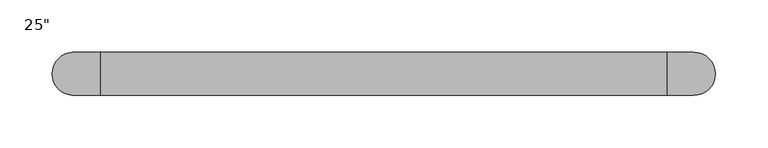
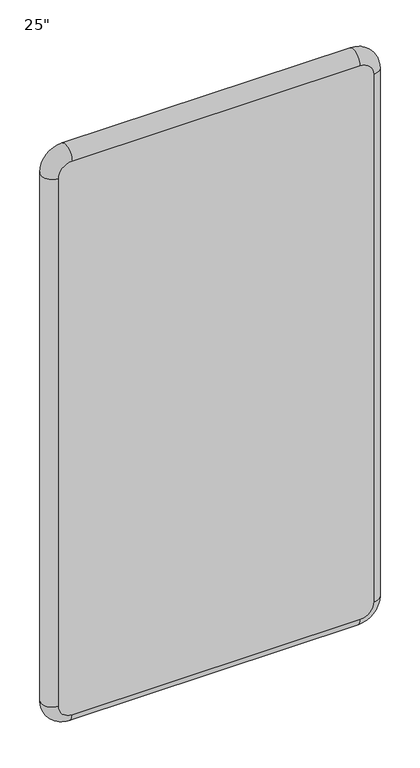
"""IFC4 building model written with IfcOpenShell, lengths in millimetres: furniture geometry."""

from ifc_helpers import new_model, si_unit, point, frame, origin, place, context, project, spatial, circle_curve, ellipse_curve, trimmed, source, transform, mapped, element, save
from ifc_brep_helpers import plane_surface, cylinder_surface, revolved_surface, advanced_brep


def furniture_6adaf966(model_context):
    return source(origin(), model_context, "Body", "AdvancedBrep", [
        advanced_brep(
        [(271.3348317, 41.275, 1165.225), (296.8625, 41.275, 1139.6973317), (296.8625, 41.275, 89.0276683), (271.3348317, 41.275, 63.5), (-271.3348317, 41.275, 63.5), (-296.8625, 41.275, 89.0276683), (-296.8625, 41.275, 1139.6973317), (-271.3348317, 41.275, 1165.225), (296.8625, 0.0, 1139.6973118), (271.3348317, 0.0, 1165.225), (-271.3348285, 0.0, 1165.225), (-296.8625, 0.0, 1139.6973317), (-296.8625, 0.0, 89.0276759), (-271.3348317, 0.0, 63.5), (271.3348155, 0.0, 63.5), (296.8625, 0.0, 89.0276683)],
        [
            (0, 1, circle_curve(frame((271.3348317, 41.275, 1139.6973317), z_axis=(0.0, 1.0, 0.0), x_axis=(0.0, 0.0, 1.0)), 25.5276683)),
            (1, 2),
            (2, 3, circle_curve(frame((271.3348317, 41.275, 89.0276683), z_axis=(0.0, 1.0, 0.0), x_axis=(1.0, 0.0, 0.0)), 25.5276683)),
            (3, 4),
            (4, 5, circle_curve(frame((-271.3348317, 41.275, 89.0276683), z_axis=(0.0, 1.0, 0.0), x_axis=(0.0, 0.0, -1.0)), 25.5276683)),
            (5, 6),
            (6, 7, circle_curve(frame((-271.3348317, 41.275, 1139.6973317), z_axis=(0.0, 1.0, 0.0), x_axis=(-1.0, 0.0, 0.0)), 25.5276683)),
            (7, 0),
            (8, 9, circle_curve(frame((271.3348317, 0.0, 1139.6973317), z_axis=(0.0, -1.0, 0.0), x_axis=(0.0, 0.0, 1.0)), 25.5276683)),
            (9, 10),
            (10, 11, circle_curve(frame((-271.3348317, 0.0, 1139.6973317), z_axis=(0.0, -1.0, 0.0), x_axis=(-1.0, 0.0, 0.0)), 25.5276683)),
            (11, 12),
            (12, 13, circle_curve(frame((-271.3348317, 0.0, 89.0276683), z_axis=(0.0, -1.0, 0.0), x_axis=(0.0, 0.0, -1.0)), 25.5276683)),
            (13, 14),
            (14, 15, circle_curve(frame((271.3348317, 0.0, 89.0276683), z_axis=(0.0, -1.0, 0.0), x_axis=(1.0, 0.0, 0.0)), 25.5276683)),
            (15, 8),
            (0, 9, circle_curve(frame((271.3348317, 20.6375, 1165.225), z_axis=(1.0, 0.0, 0.0), x_axis=(0.0, 0.0, 1.0)), 20.6375)),
            (8, 1, circle_curve(frame((296.8625, 20.6375, 1139.6973317), z_axis=(0.0, 0.0, 1.0), x_axis=(1.0, 0.0, 0.0)), 20.6375)),
            (15, 2, circle_curve(frame((296.8625, 20.6375, 89.0276683), z_axis=(0.0, 0.0, 1.0), x_axis=(1.0, 0.0, 0.0)), 20.6375)),
            (14, 3, circle_curve(frame((271.3348317, 20.6375, 63.5), z_axis=(1.0, 0.0, 0.0), x_axis=(0.0, 0.0, -1.0)), 20.6375)),
            (13, 4, circle_curve(frame((-271.3348317, 20.6375, 63.5), z_axis=(1.0, 0.0, 0.0), x_axis=(0.0, 0.0, -1.0)), 20.6375)),
            (12, 5, circle_curve(frame((-296.8625, 20.6375, 89.0276683), z_axis=(0.0, 0.0, -1.0), x_axis=(-1.0, 0.0, 0.0)), 20.6375)),
            (11, 6, circle_curve(frame((-296.8625, 20.6375, 1139.6973317), z_axis=(0.0, 0.0, -1.0), x_axis=(-1.0, 0.0, 0.0)), 20.6375)),
            (10, 7, circle_curve(frame((-271.3348317, 20.6375, 1165.225), z_axis=(-1.0, 0.0, 0.0), x_axis=(0.0, 0.0, 1.0)), 20.6375)),
        ],
        [
            plane_surface(frame((-271.3348317, 41.275, 1165.225), z_axis=(0.0, 1.0, 0.0), x_axis=(1.0, 0.0, 0.0))),
            plane_surface(frame((-271.3348317, 0.0, 1165.225), z_axis=(0.0, -1.0, 0.0), x_axis=(-1.0, 0.0, 0.0))),
            revolved_surface(trimmed(ellipse_curve(frame((271.3348317, 20.6375, 1165.225), z_axis=(-1.0, 0.0, 0.0), x_axis=(0.0, 0.0, 1.0)), 20.6375, 20.6375), [point((271.3348317, 0.0, 1165.225))], [point((271.3348317, 41.275, 1165.225))], True, "CARTESIAN"), (271.3348317, 0.0, 1139.6973317), (0.0, 1.0, 0.0)),
            cylinder_surface(frame((296.8625, 20.6375, 1139.6973317), z_axis=(0.0, 0.0, 1.0), x_axis=(1.0, 0.0, 0.0)), 20.6375),
            revolved_surface(trimmed(ellipse_curve(frame((296.8625, 20.6375, 89.0276683), z_axis=(0.0, 0.0, 1.0), x_axis=(1.0, 0.0, 0.0)), 20.6375, 20.6375), [point((296.8625, 0.0, 89.0276683))], [point((296.8625, 41.275, 89.0276683))], True, "CARTESIAN"), (271.3348317, 0.0, 89.0276683), (0.0, 1.0, 0.0)),
            cylinder_surface(frame((271.3348317, 20.6375, 63.5), z_axis=(1.0, 0.0, 0.0), x_axis=(0.0, 0.0, -1.0)), 20.6375),
            revolved_surface(trimmed(ellipse_curve(frame((-271.3348317, 20.6375, 63.5), z_axis=(1.0, 0.0, 0.0), x_axis=(0.0, 0.0, -1.0)), 20.6375, 20.6375), [point((-271.3348317, 0.0, 63.5))], [point((-271.3348317, 41.275, 63.5))], True, "CARTESIAN"), (-271.3348317, 0.0, 89.0276683), (0.0, 1.0, 0.0)),
            cylinder_surface(frame((-296.8625, 20.6375, 89.0276683), z_axis=(0.0, 0.0, -1.0), x_axis=(-1.0, 0.0, 0.0)), 20.6375),
            revolved_surface(trimmed(ellipse_curve(frame((-296.8625, 20.6375, 1139.6973317), z_axis=(0.0, 0.0, -1.0), x_axis=(-1.0, 0.0, 0.0)), 20.6375, 20.6375), [point((-296.8625, 0.0, 1139.6973317))], [point((-296.8625, 41.275, 1139.6973317))], True, "CARTESIAN"), (-271.3348317, 0.0, 1139.6973317), (0.0, 1.0, 0.0)),
            cylinder_surface(frame((-271.3348317, 20.6375, 1165.225), z_axis=(-1.0, 0.0, 0.0), x_axis=(0.0, 0.0, 1.0)), 20.6375),
        ],
        [
            (0, [[1, 2, 3, 4, 5, 6, 7, 8]]),
            (1, [[9, 10, 11, 12, 13, 14, 15, 16]]),
            (2, [[17, -9, 18, -1]]),
            (3, [[-18, -16, 19, -2]]),
            (4, [[-19, -15, 20, -3]]),
            (5, [[-20, -14, 21, -4]]),
            (6, [[-21, -13, 22, -5]]),
            (7, [[-22, -12, 23, -6]]),
            (8, [[-23, -11, 24, -7]]),
            (9, [[-17, -8, -24, -10]]),
        ],
    ),
    ])


if __name__ == "__main__":
    model = new_model("IFC4")
    model_context = context("Model", 3, world=origin())
    ifc_project = project(units=[si_unit("LENGTHUNIT", "METRE", prefix="MILLI")], contexts=[model_context])
    site = spatial("IfcSite", under=ifc_project)
    building = spatial("IfcBuilding", under=site)
    placement = place(None, origin())
    furniture_shape = furniture_6adaf966(model_context)
    element("IfcFurniture", 1, ObjectType="Stylex - Yoom Screen : 25\"", at=placement, inside=building, context=model_context, shape_type="MappedRepresentation", body=[
        mapped(furniture_shape, transform((0.0, 0.0, 0.0), x_axis=(1.0, 0.0, 0.0), y_axis=(0.0, 1.0, 0.0), z_axis=(0.0, 0.0, 1.0))),
    ])
    save(model, "model.ifc")
